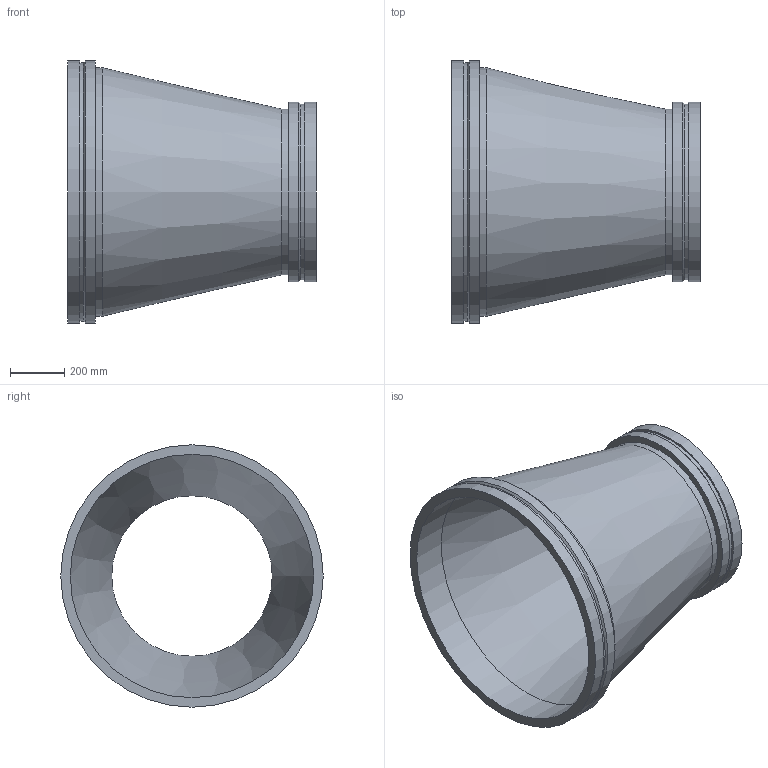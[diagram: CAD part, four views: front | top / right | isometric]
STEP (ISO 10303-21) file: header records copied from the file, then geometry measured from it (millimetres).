
FILE_DESCRIPTION(/* description */ ('VIC REDUCER CONCENTRIC No W50 VR','CAx-IF Rec.Pracs.---Representation and Presentation of Product Manufacturing Information (PMI)---4.0---2014-10-13'),/* implementation_level */ '2;1');
FILE_NAME(/* name */ 'C:\Users\kkamble\AppData\Roaming\Autodesk\ApplicationPlugins\Back Up\Victaulic_Vic-Ring_Reducer Concentric_No W50 VR (AGR)\Victaulic_Vic-Ring_Reducer Concentric_No W50 VR (AGR)_36.0x24.0 (900x600).stp',/* time_stamp */ '2020-09-10T11:47:00+05:00',/* author */ ('cps_temp'),/* organization */ ('Victaulic'),/* preprocessor_version */ 'ST-DEVELOPER v17.2',/* originating_system */ 'Autodesk Inventor 2019',/* authorisation */ '');
FILE_SCHEMA (('AP242_MANAGED_MODEL_BASED_3D_ENGINEERING_MIM_LF { 1 0 10303 442 1 1 4 }'));
Length unit declared in the file: inch
Products named in the file (1): W50 VR-36.0x24.0
Bounding box: 914.4 x 965.2 x 965.2 mm (x, y, z)
Volume: 32747265 mm3; surface area: 4786291.9 mm2
Topology: 1 solids, 1 shells, 20 faces, 54 edges, 40 vertices
Faces by surface type: cylinder 10, plane 6, cone 4
Full cylindrical faces by diameter (mm): 590.55 x1, 609.6 x1, 645.922 x1, 660.4 x2, 895.35 x1, 914.4 x1, 950.722 x1, 965.2 x2
Entity records: 830 total; most frequent: DIRECTION 162, CARTESIAN_POINT 132, ORIENTED_EDGE 108, AXIS2_PLACEMENT_3D 74, EDGE_CURVE 54, CIRCLE 40, VERTEX_POINT 40, EDGE_LOOP 26
